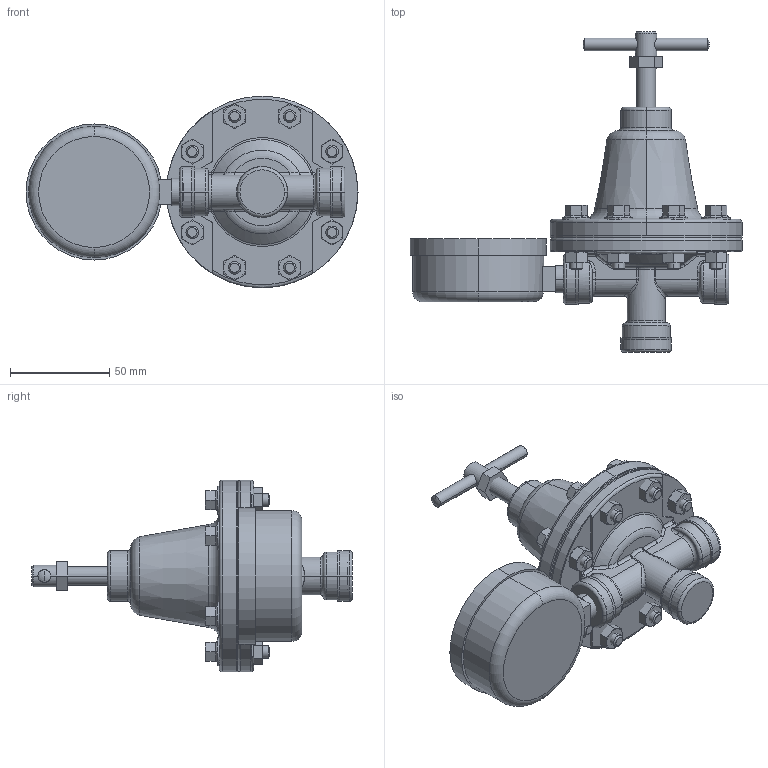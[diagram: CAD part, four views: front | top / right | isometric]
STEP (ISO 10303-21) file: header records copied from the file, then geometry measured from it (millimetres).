
FILE_DESCRIPTION((''),'2;1');
FILE_NAME('236449-EN-C_PRT','2019-12-31T16:20:56',('qusrh3'),(''),'CREO PARAMETRIC BY PTC INC, 2019030','CREO PARAMETRIC BY PTC INC, 2019030','');
FILE_SCHEMA(('CONFIG_CONTROL_DESIGN'));
Length unit declared in the file: inch
Products named in the file (1): 236449-EN-C_PRT
Bounding box: 167.2 x 161.42 x 96.52 mm (x, y, z)
Surface area: 85060.7 mm2 (no closed solid volume)
Topology: 0 solids, 45 shells, 560 faces, 1319 edges, 798 vertices
Faces by surface type: plane 188, cylinder 148, cone 146, torus 46, bspline 28, sphere 4
Entity records: 18988 total; most frequent: CARTESIAN_POINT 7172, ORIENTED_EDGE 2446, DIRECTION 2290, EDGE_CURVE 1313, AXIS2_PLACEMENT_3D 919, VERTEX_POINT 798, EDGE_LOOP 560, FACE_OUTER_BOUND 560
